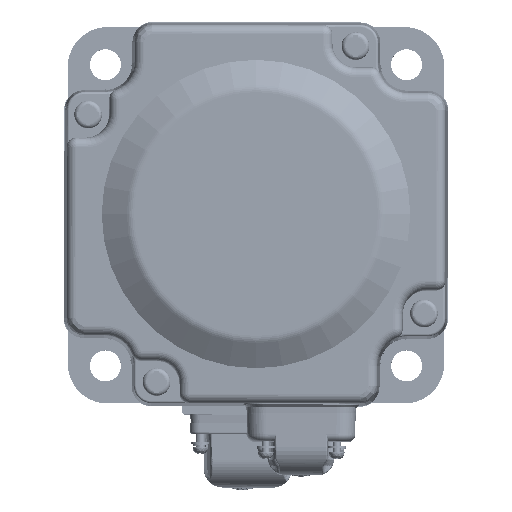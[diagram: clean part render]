
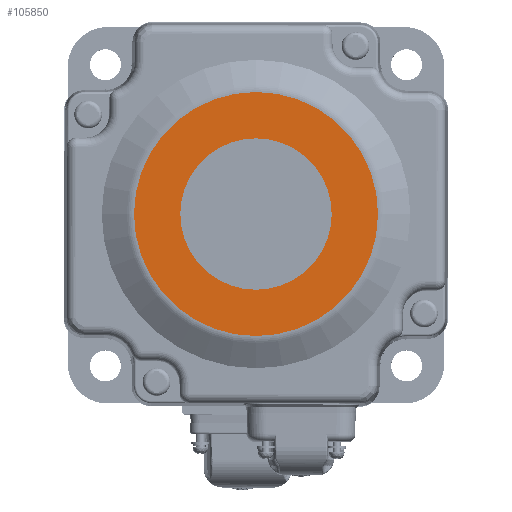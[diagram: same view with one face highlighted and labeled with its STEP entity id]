
A CAD part, top view. The second image highlights one B-rep face of the part: STEP entity #105850.
In plain terms, the highlighted planar face has unit normal (0, 0, 1).
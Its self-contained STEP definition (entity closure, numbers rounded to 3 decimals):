
#39513=CARTESIAN_POINT('',(40.025,40.025,138.169));
#39514=DIRECTION('',(0.,0.,-1.));
#39515=DIRECTION('',(-1.,0.002,0.));
#39516=AXIS2_PLACEMENT_3D('',#39513,#39514,#39515);
#39518=CARTESIAN_POINT('',(40.025,40.025,138.169));
#39519=DIRECTION('',(0.,0.,-1.));
#39520=DIRECTION('',(1.,-0.002,0.));
#39521=AXIS2_PLACEMENT_3D('',#39518,#39519,#39520);
#39523=CARTESIAN_POINT('',(40.025,40.025,138.169));
#39524=DIRECTION('',(0.,0.,1.));
#39525=DIRECTION('',(-1.,0.002,0.));
#39526=AXIS2_PLACEMENT_3D('',#39523,#39524,#39525);
#39528=CARTESIAN_POINT('',(40.025,40.025,138.169));
#39529=DIRECTION('',(0.,0.,1.));
#39530=DIRECTION('',(1.,-0.002,0.));
#39531=AXIS2_PLACEMENT_3D('',#39528,#39529,#39530);
#44502=CARTESIAN_POINT('',(14.236,40.085,138.169));
#44503=CARTESIAN_POINT('',(65.814,39.965,138.169));
#44504=VERTEX_POINT('',#44502);
#44505=VERTEX_POINT('',#44503);
#44506=CARTESIAN_POINT('',(24.025,40.062,138.169));
#44507=CARTESIAN_POINT('',(56.025,39.988,138.169));
#44508=VERTEX_POINT('',#44506);
#44509=VERTEX_POINT('',#44507);
#105834=CARTESIAN_POINT('',(40.025,40.025,
138.169));
#105835=DIRECTION('',(0.,0.,1.));
#105836=DIRECTION('',(-1.,0.002,0.));
#105837=AXIS2_PLACEMENT_3D('',#105834,#105835,#105836);
#105838=PLANE('',#105837);
#105839=ORIENTED_EDGE('',*,*,#105824,.T.);
#105841=ORIENTED_EDGE('',*,*,#105840,.T.);
#105842=EDGE_LOOP('',(#105839,#105841));
#105843=FACE_OUTER_BOUND('',#105842,.F.);
#105845=ORIENTED_EDGE('',*,*,#105844,.T.);
#105847=ORIENTED_EDGE('',*,*,#105846,.T.);
#105848=EDGE_LOOP('',(#105845,#105847));
#105849=FACE_BOUND('',#105848,.F.);
#39517=CIRCLE('',#39516,25.789);
#39522=CIRCLE('',#39521,25.789);
#39527=CIRCLE('',#39526,16.);
#39532=CIRCLE('',#39531,16.);
#105824=EDGE_CURVE('',#44504,#44505,#39517,.T.);
#105840=EDGE_CURVE('',#44505,#44504,#39522,.T.);
#105844=EDGE_CURVE('',#44508,#44509,#39527,.T.);
#105846=EDGE_CURVE('',#44509,#44508,#39532,.T.);
#105850=ADVANCED_FACE('',(#105843,#105849),#105838,.T.);
